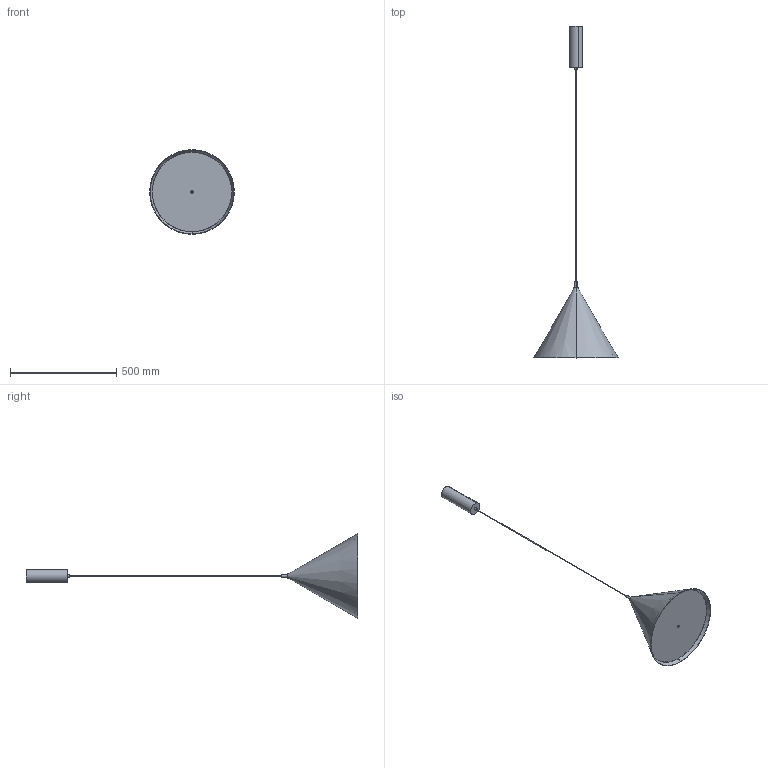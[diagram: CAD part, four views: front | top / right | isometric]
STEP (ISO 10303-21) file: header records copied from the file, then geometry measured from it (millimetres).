
FILE_DESCRIPTION (( 'STEP AP214' ), '1' );
FILE_NAME ('TRAG_C1340_40.STEP', '2024-12-19T11:50:18', ( '' ), ( '' ), 'SwSTEP 2.0', 'SolidWorks 2018', '' );
FILE_SCHEMA (( 'AUTOMOTIVE_DESIGN' ));
Length unit declared in the file: millimetre
Products named in the file (3): colgante con40  sin bola; estructura; TRAG_C1340_40
Assembly tree (2 placements, depth 2):
  TRAG_C1340_40
    estructura
    colgante con40  sin bola
Bounding box: 399.25 x 1564.91 x 399.25 mm (x, y, z)
Volume: 1278755.7 mm3; surface area: 775480.6 mm2
Topology: 7 solids, 7 shells, 35 faces, 56 edges, 36 vertices
Faces by surface type: plane 15, cylinder 10, cone 6, torus 4
Entity records: 973 total; most frequent: DIRECTION 176, CARTESIAN_POINT 132, ORIENTED_EDGE 112, AXIS2_PLACEMENT_3D 80, EDGE_CURVE 56, CIRCLE 40, VERTEX_POINT 36, EDGE_LOOP 36
